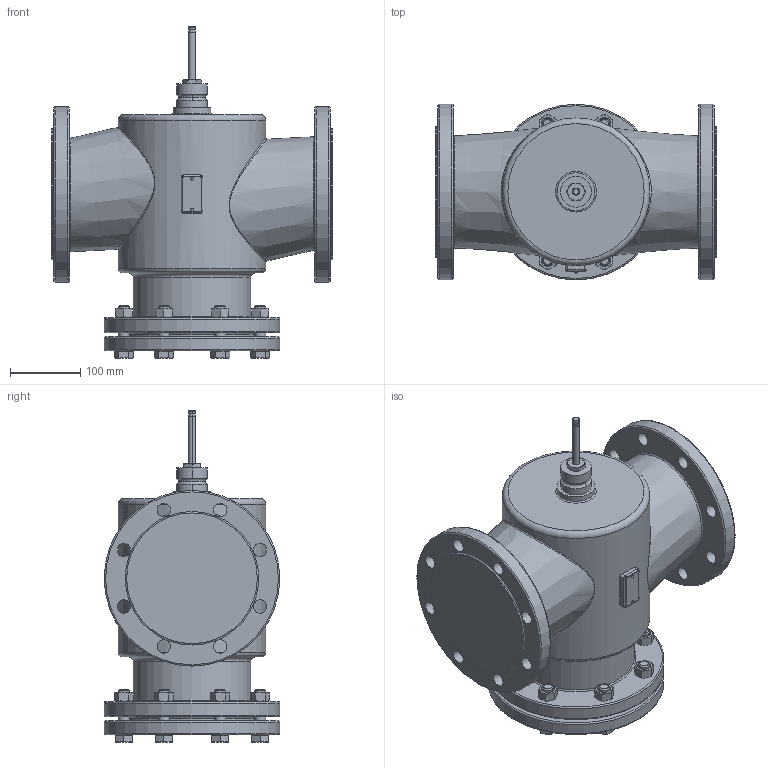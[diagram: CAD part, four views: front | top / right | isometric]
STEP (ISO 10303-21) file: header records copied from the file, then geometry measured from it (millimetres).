
FILE_DESCRIPTION(/* description */ (''),/* implementation_level */ '2;1');
FILE_NAME(/* name */ 'RAS_023468_00.stp',/* time_stamp */ '2012-12-12T11:36:05+01:00',/* author */ (''),/* organization */ (''),/* preprocessor_version */ 'ST-DEVELOPER v11',/* originating_system */ 'SIEMENS UGS NX 6.0',/* authorisation */ '');
FILE_SCHEMA (('AUTOMOTIVE_DESIGN { 1 0 10303 214 1 1 1 1 }'));
Length unit declared in the file: millimetre
Products named in the file (1): Ront155Awmg9
Bounding box: 400 x 250 x 472.5 mm (x, y, z)
Volume: 17327896.7 mm3; surface area: 689509.8 mm2
Topology: 1 solids, 2 shells, 476 faces, 1044 edges, 635 vertices
Faces by surface type: plane 180, cone 176, cylinder 90, torus 20, bspline 8, sphere 2
Full cylindrical faces by diameter (mm): 15.682 x16, 19 x32, 22 x8, 54 x1, 167 x1, 186 x3, 210 x1, 250 x4
Entity records: 16145 total; most frequent: CARTESIAN_POINT 4367, DIRECTION 1848, ORIENTED_EDGE 1804, EDGE_CURVE 902, AXIS2_PLACEMENT_3D 855, EDGE_LOOP 704, VERTEX_POINT 610, ADVANCED_FACE 476
